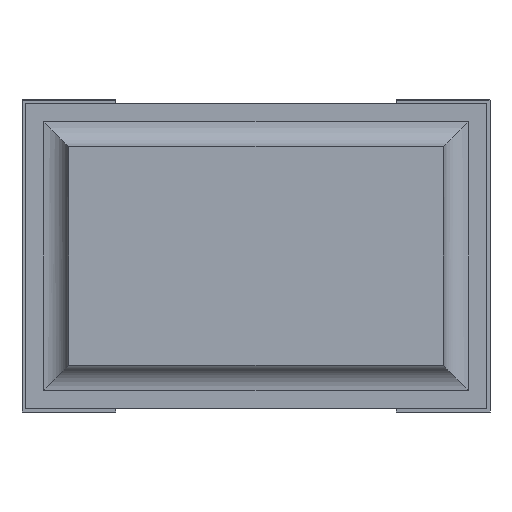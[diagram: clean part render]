
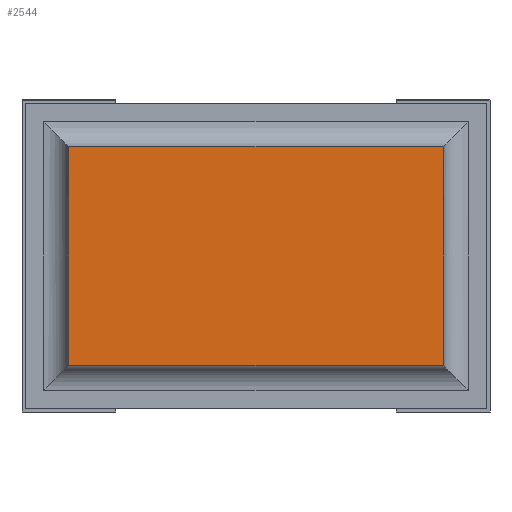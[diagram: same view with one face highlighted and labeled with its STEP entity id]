
A CAD part, front view. The second image highlights one B-rep face of the part: STEP entity #2544.
In plain terms, the highlighted planar face has unit normal (0, -1, 0).
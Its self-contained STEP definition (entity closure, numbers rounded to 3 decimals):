
#41=PLANE('',#2732);
#168=FACE_OUTER_BOUND('',#326,.T.);
#326=EDGE_LOOP('',(#1793,#1794,#1795,#1796));
#493=LINE('',#3646,#825);
#496=LINE('',#3652,#828);
#497=LINE('',#3655,#829);
#498=LINE('',#3656,#830);
#825=VECTOR('',#2931,10.);
#828=VECTOR('',#2936,10.);
#829=VECTOR('',#2939,10.);
#830=VECTOR('',#2940,10.);
#1189=VERTEX_POINT('',#3642);
#1190=VERTEX_POINT('',#3644);
#1192=VERTEX_POINT('',#3650);
#1193=VERTEX_POINT('',#3654);
#1423=EDGE_CURVE('',#1189,#1190,#493,.T.);
#1426=EDGE_CURVE('',#1192,#1190,#496,.T.);
#1427=EDGE_CURVE('',#1193,#1192,#497,.T.);
#1428=EDGE_CURVE('',#1189,#1193,#498,.T.);
#1793=ORIENTED_EDGE('',*,*,#1426,.F.);
#1794=ORIENTED_EDGE('',*,*,#1427,.F.);
#1795=ORIENTED_EDGE('',*,*,#1428,.F.);
#1796=ORIENTED_EDGE('',*,*,#1423,.T.);
#2544=ADVANCED_FACE('',(#168),#41,.T.);
#2732=AXIS2_PLACEMENT_3D('',#3653,#2937,#2938);
#2931=DIRECTION('',(0.,0.,-1.));
#2936=DIRECTION('',(-1.,0.,0.));
#2937=DIRECTION('center_axis',(0.,-1.,0.));
#2938=DIRECTION('ref_axis',(0.,0.,-1.));
#2939=DIRECTION('',(0.,0.,-1.));
#2940=DIRECTION('',(1.,0.,0.));
#3642=CARTESIAN_POINT('',(0.075,0.,0.425));
#3644=CARTESIAN_POINT('',(0.075,0.,0.075));
#3646=CARTESIAN_POINT('',(0.075,0.,0.425));
#3650=CARTESIAN_POINT('',(0.675,0.,0.075));
#3652=CARTESIAN_POINT('',(0.675,0.,0.075));
#3653=CARTESIAN_POINT('Origin',(0.676,0.,0.25));
#3654=CARTESIAN_POINT('',(0.675,0.,0.425));
#3655=CARTESIAN_POINT('',(0.675,0.,0.425));
#3656=CARTESIAN_POINT('',(0.075,0.,0.425));
